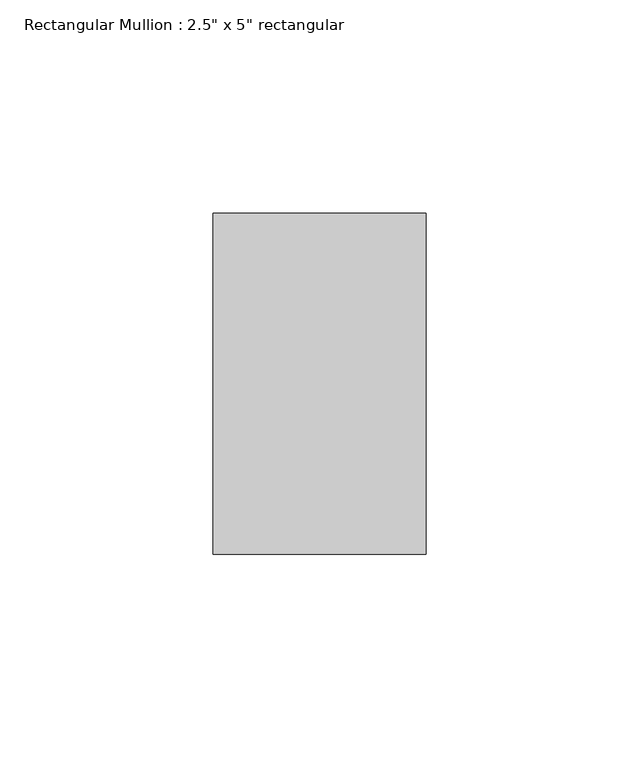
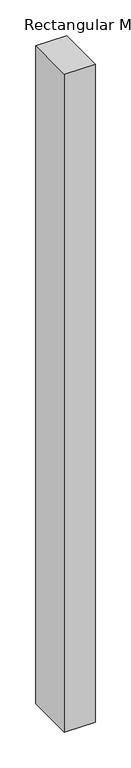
"""IFC4 building model written with IfcOpenShell, lengths in millimetres: member geometry."""

from ifc_helpers import new_model, si_unit, frame, origin, place, context, project, spatial, polyline, outline, extrude, source, transform, mapped, element, save


def member_9f81c8f5(model_context):
    return source(origin(), model_context, "Body", "SweptSolid", [
        extrude(outline(polyline([(0.0, 40.0), (0.0, -40.0), (-50.0, -40.0), (-50.0, 40.0), (0.0, 40.0)])), frame((0.0, 0.0, -1125.0000003), z_axis=(0.0, 0.0, 1.0), x_axis=(1.0, 0.0, 0.0)), (0.0, 0.0, 1.0), 1125.0000003),
    ])


if __name__ == "__main__":
    model = new_model("IFC4")
    model_context = context("Model", 3, world=origin())
    ifc_project = project(units=[si_unit("LENGTHUNIT", "METRE", prefix="MILLI")], contexts=[model_context])
    site = spatial("IfcSite", under=ifc_project)
    building = spatial("IfcBuilding", under=site)
    placement = place(None, origin())
    member_shape = member_9f81c8f5(model_context)
    element("IfcMember", 1, ObjectType="Rectangular Mullion : 2.5\" x 5\" rectangular", at=placement, inside=building, context=model_context, shape_type="MappedRepresentation", body=[
        mapped(member_shape, transform((0.0, 0.0, 0.0), x_axis=(1.0, 0.0, 0.0), y_axis=(0.0, 1.0, 0.0), z_axis=(0.0, 0.0, 1.0))),
    ])
    save(model, "model.ifc")
